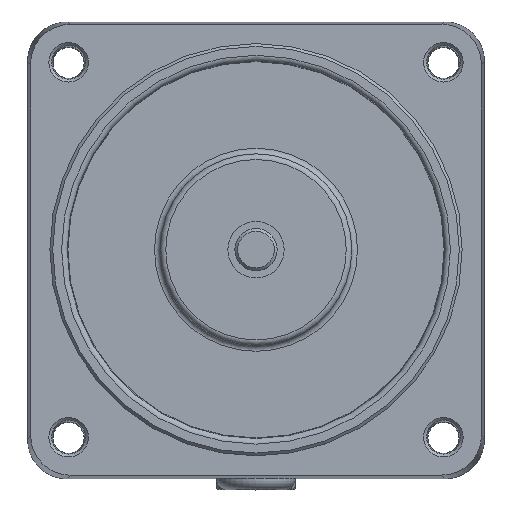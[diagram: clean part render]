
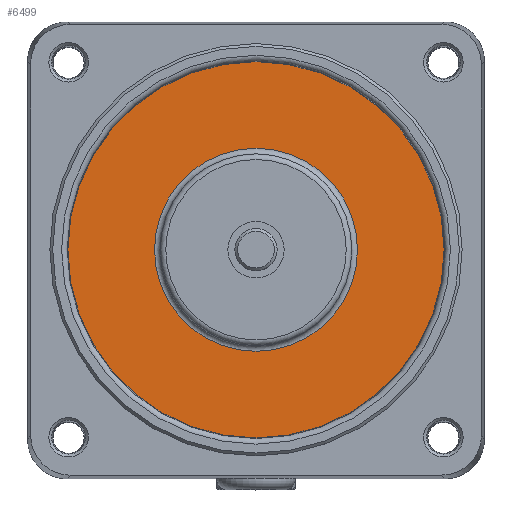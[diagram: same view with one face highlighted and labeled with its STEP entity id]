
A CAD part, top view. The second image highlights one B-rep face of the part: STEP entity #6499.
In plain terms, the highlighted planar face has unit normal (0, 0, 1).
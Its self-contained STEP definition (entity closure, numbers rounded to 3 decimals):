
#382 = ORIENTED_EDGE ( 'NONE', *, *, #5834, .T. ) ;
#391 = FACE_BOUND ( 'NONE', #6595, .T. ) ;
#817 = CARTESIAN_POINT ( 'NONE',  ( 0., 0., 71.5 ) ) ;
#1076 = DIRECTION ( 'NONE',  ( 0., 0., -1. ) ) ;
#1446 = DIRECTION ( 'NONE',  ( 1., 0., 0. ) ) ;
#1450 = AXIS2_PLACEMENT_3D ( 'NONE', #817, #4026, #1446 ) ;
#1502 = DIRECTION ( 'NONE',  ( 1., 0., 0. ) ) ;
#1896 = DIRECTION ( 'NONE',  ( 0., 0., 1. ) ) ;
#2072 = DIRECTION ( 'NONE',  ( 1., 0., 0. ) ) ;
#2146 = AXIS2_PLACEMENT_3D ( 'NONE', #4675, #1896, #1502 ) ;
#2479 = AXIS2_PLACEMENT_3D ( 'NONE', #6898, #1076, #2072 ) ;
#2826 = CIRCLE ( 'NONE', #2146, 33.36 ) ;
#3618 = VERTEX_POINT ( 'NONE', #5206 ) ;
#4026 = DIRECTION ( 'NONE',  ( 0., 0., 1. ) ) ;
#4639 = VERTEX_POINT ( 'NONE', #6301 ) ;
#4675 = CARTESIAN_POINT ( 'NONE',  ( 0., 0., 71.5 ) ) ;
#5118 = FACE_OUTER_BOUND ( 'NONE', #6703, .T. ) ;
#5194 = ORIENTED_EDGE ( 'NONE', *, *, #5664, .T. ) ;
#5206 = CARTESIAN_POINT ( 'NONE',  ( 18., 0., 71.5 ) ) ;
#5414 = CIRCLE ( 'NONE', #2479, 18. ) ;
#5664 = EDGE_CURVE ( 'NONE', #4639, #4639, #2826, .T. ) ;
#5729 = PLANE ( 'NONE',  #1450 ) ;
#5834 = EDGE_CURVE ( 'NONE', #3618, #3618, #5414, .T. ) ;
#6301 = CARTESIAN_POINT ( 'NONE',  ( 33.36, 0., 71.5 ) ) ;
#6499 = ADVANCED_FACE ( 'NONE', ( #391, #5118 ), #5729, .T. ) ;
#6595 = EDGE_LOOP ( 'NONE', ( #382 ) ) ;
#6703 = EDGE_LOOP ( 'NONE', ( #5194 ) ) ;
#6898 = CARTESIAN_POINT ( 'NONE',  ( 0., 0., 71.5 ) ) ;
